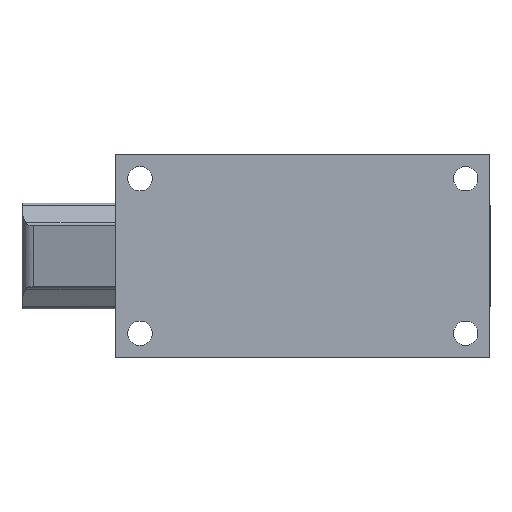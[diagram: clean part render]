
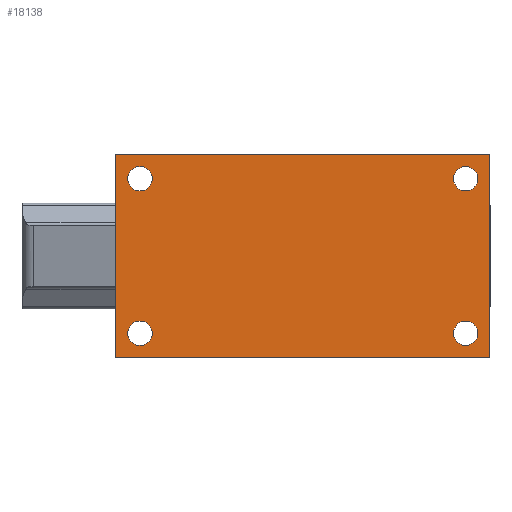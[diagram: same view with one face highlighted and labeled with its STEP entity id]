
A CAD part, front view. The second image highlights one B-rep face of the part: STEP entity #18138.
In plain terms, the highlighted planar face has unit normal (0, -1, 0).
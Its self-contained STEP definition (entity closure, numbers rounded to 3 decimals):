
#152 = CARTESIAN_POINT ( 'NONE',  ( 46., -4.25, -25. ) ) ;
#243 = DIRECTION ( 'NONE',  ( 0., 1., 0. ) ) ;
#289 = CARTESIAN_POINT ( 'NONE',  ( 40., -4.25, 22. ) ) ;
#488 = AXIS2_PLACEMENT_3D ( 'NONE', #11811, #18813, #13646 ) ;
#849 = VERTEX_POINT ( 'NONE', #21173 ) ;
#1552 = DIRECTION ( 'NONE',  ( 0., 1., 0. ) ) ;
#1664 = CARTESIAN_POINT ( 'NONE',  ( 46., -4.25, -25. ) ) ;
#1797 = CIRCLE ( 'NONE', #13573, 3. ) ;
#1883 = EDGE_CURVE ( 'NONE', #7272, #8098, #7852, .T. ) ;
#1913 = VECTOR ( 'NONE', #14999, 1000. ) ;
#1982 = DIRECTION ( 'NONE',  ( 0., 0., -1. ) ) ;
#2150 = CARTESIAN_POINT ( 'NONE',  ( -40., -4.25, 19. ) ) ;
#2661 = VERTEX_POINT ( 'NONE', #15141 ) ;
#2692 = DIRECTION ( 'NONE',  ( 0., 0., -1. ) ) ;
#2953 = FACE_BOUND ( 'NONE', #8998, .T. ) ;
#2966 = EDGE_LOOP ( 'NONE', ( #5501, #5269 ) ) ;
#3097 = EDGE_CURVE ( 'NONE', #13384, #849, #15421, .T. ) ;
#3206 = LINE ( 'NONE', #16998, #16607 ) ;
#4178 = ORIENTED_EDGE ( 'NONE', *, *, #9171, .T. ) ;
#4308 = FACE_OUTER_BOUND ( 'NONE', #21349, .T. ) ;
#4678 = CARTESIAN_POINT ( 'NONE',  ( 40., -4.25, -16. ) ) ;
#5235 = CARTESIAN_POINT ( 'NONE',  ( 40., -4.25, 19. ) ) ;
#5244 = ORIENTED_EDGE ( 'NONE', *, *, #11785, .T. ) ;
#5269 = ORIENTED_EDGE ( 'NONE', *, *, #7594, .T. ) ;
#5386 = ORIENTED_EDGE ( 'NONE', *, *, #3097, .T. ) ;
#5501 = ORIENTED_EDGE ( 'NONE', *, *, #15874, .T. ) ;
#5714 = DIRECTION ( 'NONE',  ( 0., 0., 1. ) ) ;
#6080 = PLANE ( 'NONE',  #20056 ) ;
#6247 = AXIS2_PLACEMENT_3D ( 'NONE', #17766, #1552, #12509 ) ;
#6513 = ORIENTED_EDGE ( 'NONE', *, *, #11439, .F. ) ;
#6992 = DIRECTION ( 'NONE',  ( 0., 0., -1. ) ) ;
#7235 = ORIENTED_EDGE ( 'NONE', *, *, #19818, .T. ) ;
#7272 = VERTEX_POINT ( 'NONE', #18304 ) ;
#7507 = CARTESIAN_POINT ( 'NONE',  ( 40., -4.25, -19. ) ) ;
#7534 = CARTESIAN_POINT ( 'NONE',  ( -46., -4.25, 25. ) ) ;
#7594 = EDGE_CURVE ( 'NONE', #20545, #15642, #8132, .T. ) ;
#7774 = CIRCLE ( 'NONE', #488, 3. ) ;
#7817 = VERTEX_POINT ( 'NONE', #152 ) ;
#7852 = CIRCLE ( 'NONE', #13069, 3. ) ;
#8098 = VERTEX_POINT ( 'NONE', #13546 ) ;
#8132 = CIRCLE ( 'NONE', #6247, 3. ) ;
#8575 = CIRCLE ( 'NONE', #16739, 3. ) ;
#8998 = EDGE_LOOP ( 'NONE', ( #22358, #7235 ) ) ;
#9171 = EDGE_CURVE ( 'NONE', #849, #13384, #7774, .T. ) ;
#9186 = FACE_BOUND ( 'NONE', #14686, .T. ) ;
#9387 = EDGE_CURVE ( 'NONE', #19214, #12839, #9425, .T. ) ;
#9425 = CIRCLE ( 'NONE', #17017, 3. ) ;
#9479 = VECTOR ( 'NONE', #13258, 1000. ) ;
#9727 = CARTESIAN_POINT ( 'NONE',  ( -46., -4.25, -25. ) ) ;
#9733 = VERTEX_POINT ( 'NONE', #9727 ) ;
#10472 = CARTESIAN_POINT ( 'NONE',  ( -40., -4.25, -19. ) ) ;
#10571 = CARTESIAN_POINT ( 'NONE',  ( 40., -4.25, -22. ) ) ;
#10649 = CARTESIAN_POINT ( 'NONE',  ( 40., -4.25, 19. ) ) ;
#10673 = ORIENTED_EDGE ( 'NONE', *, *, #14806, .F. ) ;
#10850 = EDGE_CURVE ( 'NONE', #7817, #9733, #22440, .T. ) ;
#11026 = CIRCLE ( 'NONE', #21340, 3. ) ;
#11142 = EDGE_CURVE ( 'NONE', #9733, #16617, #20995, .T. ) ;
#11356 = DIRECTION ( 'NONE',  ( 0., 1., 0. ) ) ;
#11439 = EDGE_CURVE ( 'NONE', #16617, #2661, #3206, .T. ) ;
#11587 = DIRECTION ( 'NONE',  ( 1., 0., 0. ) ) ;
#11785 = EDGE_CURVE ( 'NONE', #12839, #19214, #1797, .T. ) ;
#11811 = CARTESIAN_POINT ( 'NONE',  ( -40., -4.25, 19. ) ) ;
#12509 = DIRECTION ( 'NONE',  ( 0., 0., 1. ) ) ;
#12839 = VERTEX_POINT ( 'NONE', #289 ) ;
#13069 = AXIS2_PLACEMENT_3D ( 'NONE', #10472, #14309, #16105 ) ;
#13258 = DIRECTION ( 'NONE',  ( 0., 0., 1. ) ) ;
#13384 = VERTEX_POINT ( 'NONE', #16369 ) ;
#13546 = CARTESIAN_POINT ( 'NONE',  ( -40., -4.25, -22. ) ) ;
#13573 = AXIS2_PLACEMENT_3D ( 'NONE', #10649, #243, #1982 ) ;
#13575 = ORIENTED_EDGE ( 'NONE', *, *, #11142, .F. ) ;
#13646 = DIRECTION ( 'NONE',  ( 0., 0., 1. ) ) ;
#13990 = DIRECTION ( 'NONE',  ( 0., 0., -1. ) ) ;
#14309 = DIRECTION ( 'NONE',  ( 0., 1., 0. ) ) ;
#14415 = DIRECTION ( 'NONE',  ( 0., 1., 0. ) ) ;
#14570 = EDGE_LOOP ( 'NONE', ( #5244, #15146 ) ) ;
#14625 = DIRECTION ( 'NONE',  ( 0., 0., 1. ) ) ;
#14686 = EDGE_LOOP ( 'NONE', ( #4178, #5386 ) ) ;
#14806 = EDGE_CURVE ( 'NONE', #2661, #7817, #19398, .T. ) ;
#14999 = DIRECTION ( 'NONE',  ( -1., 0., 0. ) ) ;
#15141 = CARTESIAN_POINT ( 'NONE',  ( 46., -4.25, 25. ) ) ;
#15146 = ORIENTED_EDGE ( 'NONE', *, *, #9387, .T. ) ;
#15215 = CARTESIAN_POINT ( 'NONE',  ( -46., -4.25, -25. ) ) ;
#15421 = CIRCLE ( 'NONE', #22015, 3. ) ;
#15642 = VERTEX_POINT ( 'NONE', #4678 ) ;
#15874 = EDGE_CURVE ( 'NONE', #15642, #20545, #11026, .T. ) ;
#16105 = DIRECTION ( 'NONE',  ( 0., 0., -1. ) ) ;
#16369 = CARTESIAN_POINT ( 'NONE',  ( -40., -4.25, 16. ) ) ;
#16384 = CARTESIAN_POINT ( 'NONE',  ( 40., -4.25, 16. ) ) ;
#16607 = VECTOR ( 'NONE', #11587, 1000. ) ;
#16617 = VERTEX_POINT ( 'NONE', #7534 ) ;
#16739 = AXIS2_PLACEMENT_3D ( 'NONE', #17613, #19448, #21214 ) ;
#16998 = CARTESIAN_POINT ( 'NONE',  ( -46., -4.25, 25. ) ) ;
#17017 = AXIS2_PLACEMENT_3D ( 'NONE', #5235, #19342, #6992 ) ;
#17424 = FACE_BOUND ( 'NONE', #2966, .T. ) ;
#17591 = ORIENTED_EDGE ( 'NONE', *, *, #10850, .F. ) ;
#17613 = CARTESIAN_POINT ( 'NONE',  ( -40., -4.25, -19. ) ) ;
#17766 = CARTESIAN_POINT ( 'NONE',  ( 40., -4.25, -19. ) ) ;
#18138 = ADVANCED_FACE ( 'NONE', ( #4308, #18245, #9186, #2953, #17424 ), #6080, .F. ) ;
#18245 = FACE_BOUND ( 'NONE', #14570, .T. ) ;
#18304 = CARTESIAN_POINT ( 'NONE',  ( -40., -4.25, -16. ) ) ;
#18348 = CARTESIAN_POINT ( 'NONE',  ( 0., -4.25, 0. ) ) ;
#18813 = DIRECTION ( 'NONE',  ( 0., 1., 0. ) ) ;
#19214 = VERTEX_POINT ( 'NONE', #16384 ) ;
#19342 = DIRECTION ( 'NONE',  ( 0., 1., 0. ) ) ;
#19398 = LINE ( 'NONE', #1664, #19958 ) ;
#19448 = DIRECTION ( 'NONE',  ( 0., 1., 0. ) ) ;
#19818 = EDGE_CURVE ( 'NONE', #8098, #7272, #8575, .T. ) ;
#19958 = VECTOR ( 'NONE', #13990, 1000. ) ;
#20056 = AXIS2_PLACEMENT_3D ( 'NONE', #18348, #11356, #2692 ) ;
#20545 = VERTEX_POINT ( 'NONE', #10571 ) ;
#20995 = LINE ( 'NONE', #21826, #9479 ) ;
#21173 = CARTESIAN_POINT ( 'NONE',  ( -40., -4.25, 22. ) ) ;
#21214 = DIRECTION ( 'NONE',  ( 0., 0., -1. ) ) ;
#21340 = AXIS2_PLACEMENT_3D ( 'NONE', #7507, #21557, #14625 ) ;
#21349 = EDGE_LOOP ( 'NONE', ( #10673, #6513, #13575, #17591 ) ) ;
#21557 = DIRECTION ( 'NONE',  ( 0., 1., 0. ) ) ;
#21826 = CARTESIAN_POINT ( 'NONE',  ( -46., -4.25, -25. ) ) ;
#22015 = AXIS2_PLACEMENT_3D ( 'NONE', #2150, #14415, #5714 ) ;
#22358 = ORIENTED_EDGE ( 'NONE', *, *, #1883, .T. ) ;
#22440 = LINE ( 'NONE', #15215, #1913 ) ;
